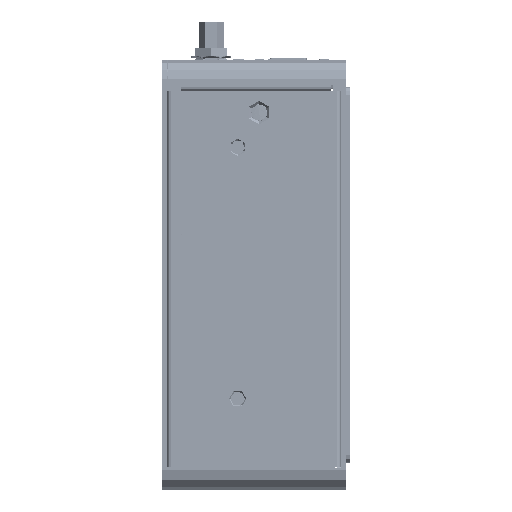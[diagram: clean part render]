
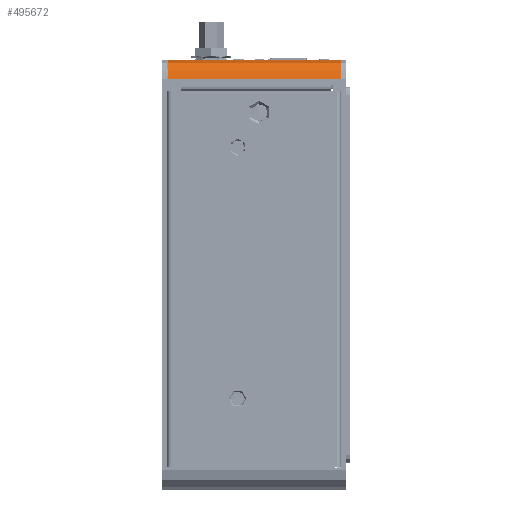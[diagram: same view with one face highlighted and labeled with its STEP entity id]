
A CAD part, left-side view. The second image highlights one B-rep face of the part: STEP entity #495672.
In plain terms, the highlighted cylindrical face has radius 5 mm (diameter 10 mm), a partial arc.
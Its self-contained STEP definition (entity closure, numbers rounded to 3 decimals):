
#1668 = CARTESIAN_POINT ( 'NONE',  ( -92.5, 44.8, 0. ) ) ;
#10089 = DIRECTION ( 'NONE',  ( 0., 1., 0. ) ) ;
#46339 = CARTESIAN_POINT ( 'NONE',  ( -92.5, 0., 0. ) ) ;
#56902 = EDGE_LOOP ( 'NONE', ( #423474, #176649, #236521, #400234 ) ) ;
#102631 = VERTEX_POINT ( 'NONE', #276364 ) ;
#113751 = DIRECTION ( 'NONE',  ( 0., 0., 1. ) ) ;
#116326 = CARTESIAN_POINT ( 'NONE',  ( -97.5, -231.24, -5. ) ) ;
#120154 = LINE ( 'NONE', #1668, #397637 ) ;
#121641 = EDGE_CURVE ( 'NONE', #348947, #190787, #120154, .T. ) ;
#148564 = CIRCLE ( 'NONE', #173184, 5. ) ;
#157416 = DIRECTION ( 'NONE',  ( 0., 1., 0. ) ) ;
#157850 = DIRECTION ( 'NONE',  ( 0., -1., 0. ) ) ;
#160140 = EDGE_CURVE ( 'NONE', #331135, #348947, #148564, .T. ) ;
#173184 = AXIS2_PLACEMENT_3D ( 'NONE', #208356, #10089, #210891 ) ;
#176649 = ORIENTED_EDGE ( 'NONE', *, *, #357048, .F. ) ;
#190787 = VERTEX_POINT ( 'NONE', #46339 ) ;
#208356 = CARTESIAN_POINT ( 'NONE',  ( -92.5, 44.1, -5. ) ) ;
#210891 = DIRECTION ( 'NONE',  ( 0., 0., 1. ) ) ;
#220790 = AXIS2_PLACEMENT_3D ( 'NONE', #229630, #157416, #113751 ) ;
#229630 = CARTESIAN_POINT ( 'NONE',  ( -92.5, -231.24, -5. ) ) ;
#236521 = ORIENTED_EDGE ( 'NONE', *, *, #121641, .F. ) ;
#237253 = DIRECTION ( 'NONE',  ( 0., -1., 0. ) ) ;
#243618 = DIRECTION ( 'NONE',  ( 0., -1., 0. ) ) ;
#266235 = CIRCLE ( 'NONE', #381327, 5. ) ;
#270407 = CARTESIAN_POINT ( 'NONE',  ( -97.5, 44.1, -5. ) ) ;
#276364 = CARTESIAN_POINT ( 'NONE',  ( -97.5, 0., -5. ) ) ;
#309725 = CARTESIAN_POINT ( 'NONE',  ( -92.5, 44.1, 0. ) ) ;
#314546 = CYLINDRICAL_SURFACE ( 'NONE', #220790, 5. ) ;
#320983 = VECTOR ( 'NONE', #237253, 1000. ) ;
#331135 = VERTEX_POINT ( 'NONE', #270407 ) ;
#335437 = FACE_OUTER_BOUND ( 'NONE', #56902, .T. ) ;
#348947 = VERTEX_POINT ( 'NONE', #309725 ) ;
#357048 = EDGE_CURVE ( 'NONE', #190787, #102631, #266235, .T. ) ;
#363363 = LINE ( 'NONE', #116326, #320983 ) ;
#381327 = AXIS2_PLACEMENT_3D ( 'NONE', #464578, #157850, #505780 ) ;
#397637 = VECTOR ( 'NONE', #243618, 1000. ) ;
#400234 = ORIENTED_EDGE ( 'NONE', *, *, #160140, .F. ) ;
#423474 = ORIENTED_EDGE ( 'NONE', *, *, #460800, .T. ) ;
#460800 = EDGE_CURVE ( 'NONE', #331135, #102631, #363363, .T. ) ;
#464578 = CARTESIAN_POINT ( 'NONE',  ( -92.5, 0., -5. ) ) ;
#495672 = ADVANCED_FACE ( 'NONE', ( #335437 ), #314546, .T. ) ;
#505780 = DIRECTION ( 'NONE',  ( 0., 0., 1. ) ) ;
